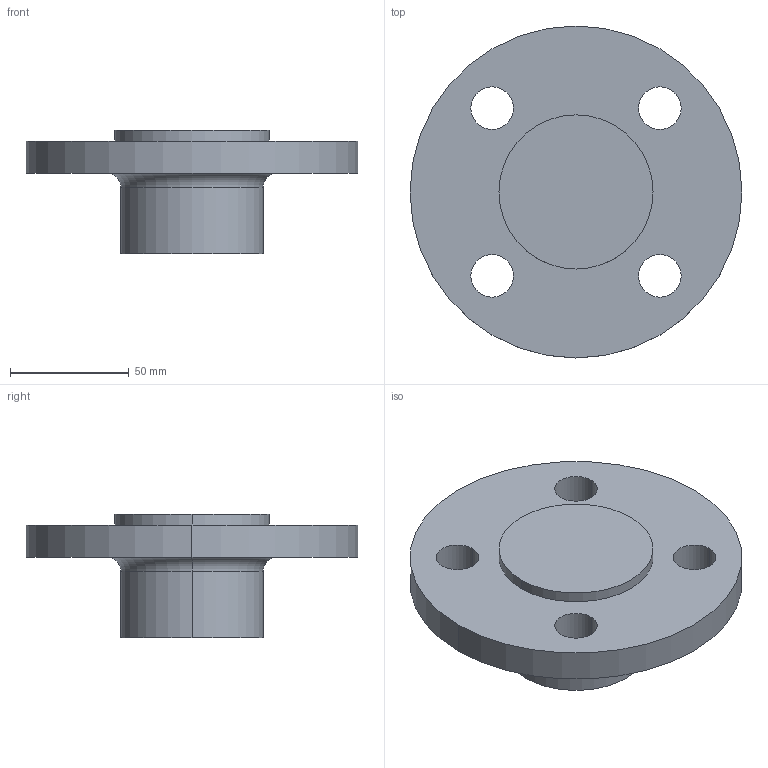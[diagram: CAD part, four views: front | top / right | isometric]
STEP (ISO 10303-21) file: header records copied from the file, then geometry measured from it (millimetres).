
FILE_DESCRIPTION (( 'STEP AP214' ), '1' );
FILE_NAME ('PN40 DN32 Type 21(i) - Type E Face.STEP', '2018-12-29T23:47:57', ( '' ), ( '' ), 'SwSTEP 2.0', 'SolidWorks 2019', '' );
FILE_SCHEMA (( 'AUTOMOTIVE_DESIGN' ));
Length unit declared in the file: millimetre
Products named in the file (1): PN40 DN32 Type 21(i) - Type E Face
Bounding box: 140 x 140 x 52 mm (x, y, z)
Volume: 306661.5 mm3; surface area: 44601.5 mm2
Topology: 1 solids, 1 shells, 20 faces, 46 edges, 30 vertices
Faces by surface type: cylinder 14, plane 4, torus 2
Entity records: 636 total; most frequent: DIRECTION 120, CARTESIAN_POINT 97, ORIENTED_EDGE 92, AXIS2_PLACEMENT_3D 53, EDGE_CURVE 46, CIRCLE 32, VERTEX_POINT 30, EDGE_LOOP 30
